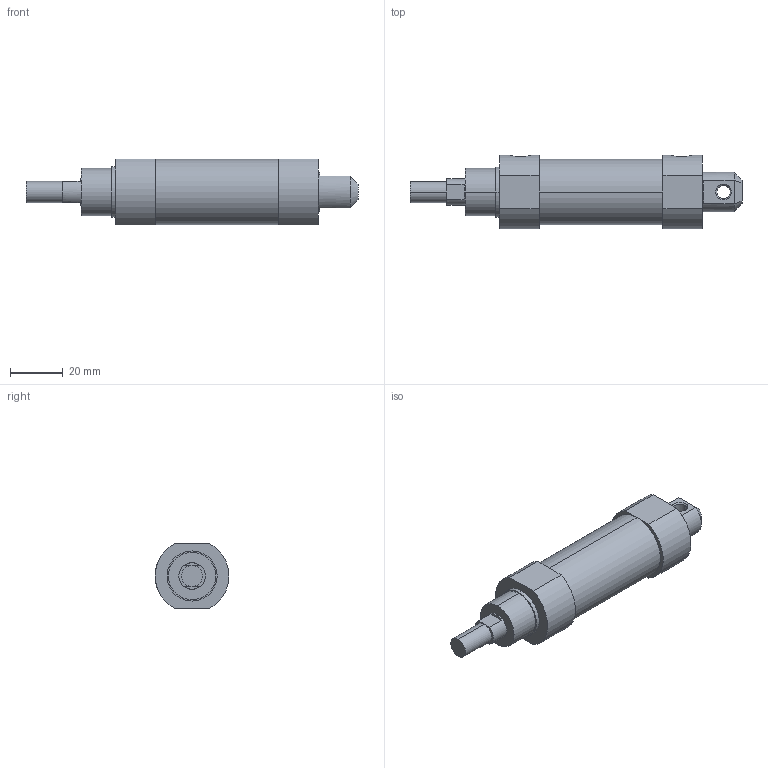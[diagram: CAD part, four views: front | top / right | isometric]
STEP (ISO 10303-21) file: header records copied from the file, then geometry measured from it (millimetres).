
FILE_DESCRIPTION (( 'STEP AP203' ), '1' );
FILE_NAME ('J#2-20-15-C.STEP', '2016-03-08T06:52:04', ( '' ), ( '' ), 'SwSTEP 2.0', 'SolidWorks 2014', '' );
FILE_SCHEMA (( 'CONFIG_CONTROL_DESIGN' ));
Length unit declared in the file: millimetre
Products named in the file (1): J#2-20-15-C
Bounding box: 126 x 27.95 x 25 mm (x, y, z)
Volume: 45770.6 mm3; surface area: 10442.5 mm2
Topology: 1 solids, 1 shells, 56 faces, 124 edges, 76 vertices
Faces by surface type: plane 28, cylinder 22, cone 6
Entity records: 1751 total; most frequent: CARTESIAN_POINT 401, DIRECTION 284, ORIENTED_EDGE 248, EDGE_CURVE 124, AXIS2_PLACEMENT_3D 111, VERTEX_POINT 76, EDGE_LOOP 64, VECTOR 62
